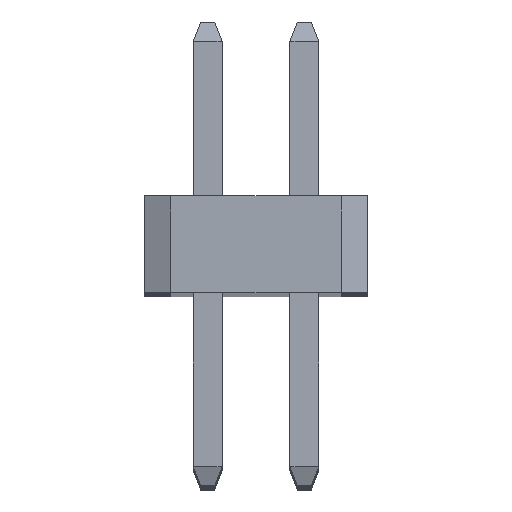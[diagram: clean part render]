
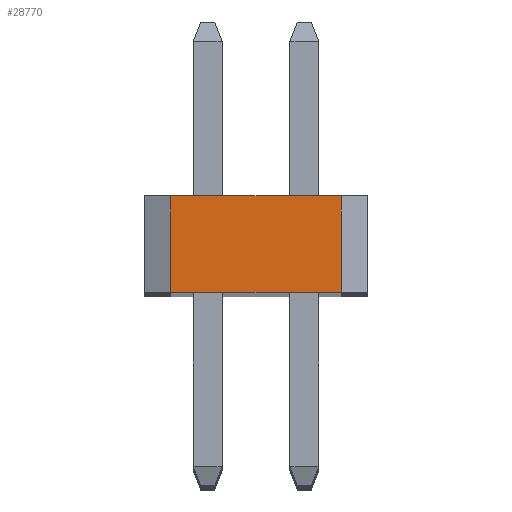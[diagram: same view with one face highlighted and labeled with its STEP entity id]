
A CAD part, top view. The second image highlights one B-rep face of the part: STEP entity #28770.
In plain terms, the highlighted planar face has unit normal (0, 0, 1).
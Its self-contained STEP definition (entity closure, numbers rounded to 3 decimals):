
#1340 = CARTESIAN_POINT ( 'NONE',  ( 0.945, -0.411, 0.5 ) ) ;
#1547 = VECTOR ( 'NONE', #16476, 1000. ) ;
#1641 = CARTESIAN_POINT ( 'NONE',  ( -1.085, 0.589, 0.5 ) ) ;
#4318 = CARTESIAN_POINT ( 'NONE',  ( -0.815, -0.411, 0.5 ) ) ;
#5635 = VECTOR ( 'NONE', #7425, 1000. ) ;
#6130 = VECTOR ( 'NONE', #19307, 1000. ) ;
#6587 = EDGE_CURVE ( 'NONE', #22514, #28258, #23629, .T. ) ;
#6892 = ORIENTED_EDGE ( 'NONE', *, *, #27675, .F. ) ;
#6908 = EDGE_LOOP ( 'NONE', ( #11203, #6892, #14334, #15011 ) ) ;
#7425 = DIRECTION ( 'NONE',  ( 1., 0., 0. ) ) ;
#7568 = CARTESIAN_POINT ( 'NONE',  ( -0.815, -0.411, 0.5 ) ) ;
#8418 = CARTESIAN_POINT ( 'NONE',  ( 0.945, 0.589, 0.5 ) ) ;
#10403 = LINE ( 'NONE', #1641, #17387 ) ;
#11203 = ORIENTED_EDGE ( 'NONE', *, *, #28546, .T. ) ;
#13237 = CARTESIAN_POINT ( 'NONE',  ( -0.815, 0.589, 0.5 ) ) ;
#13776 = CARTESIAN_POINT ( 'NONE',  ( 0.945, -0.411, 0.5 ) ) ;
#14334 = ORIENTED_EDGE ( 'NONE', *, *, #6587, .T. ) ;
#14398 = EDGE_CURVE ( 'NONE', #28258, #26710, #14486, .T. ) ;
#14486 = LINE ( 'NONE', #1340, #6130 ) ;
#14644 = DIRECTION ( 'NONE',  ( -1., 0., 0. ) ) ;
#15011 = ORIENTED_EDGE ( 'NONE', *, *, #14398, .T. ) ;
#15702 = VERTEX_POINT ( 'NONE', #13237 ) ;
#16476 = DIRECTION ( 'NONE',  ( 0., 1., 0. ) ) ;
#16618 = LINE ( 'NONE', #7568, #1547 ) ;
#17387 = VECTOR ( 'NONE', #14644, 1000. ) ;
#18704 = CARTESIAN_POINT ( 'NONE',  ( 0., 0., 0.5 ) ) ;
#19307 = DIRECTION ( 'NONE',  ( 0., 1., 0. ) ) ;
#20182 = FACE_OUTER_BOUND ( 'NONE', #6908, .T. ) ;
#21038 = DIRECTION ( 'NONE',  ( 0., 0., -1. ) ) ;
#22514 = VERTEX_POINT ( 'NONE', #4318 ) ;
#23629 = LINE ( 'NONE', #27441, #5635 ) ;
#26710 = VERTEX_POINT ( 'NONE', #8418 ) ;
#26738 = AXIS2_PLACEMENT_3D ( 'NONE', #18704, #21038, #27189 ) ;
#26902 = PLANE ( 'NONE',  #26738 ) ;
#27189 = DIRECTION ( 'NONE',  ( 0., -1., 0. ) ) ;
#27441 = CARTESIAN_POINT ( 'NONE',  ( -1.085, -0.411, 0.5 ) ) ;
#27675 = EDGE_CURVE ( 'NONE', #22514, #15702, #16618, .T. ) ;
#28258 = VERTEX_POINT ( 'NONE', #13776 ) ;
#28546 = EDGE_CURVE ( 'NONE', #26710, #15702, #10403, .T. ) ;
#28770 = ADVANCED_FACE ( 'NONE', ( #20182 ), #26902, .F. ) ;
